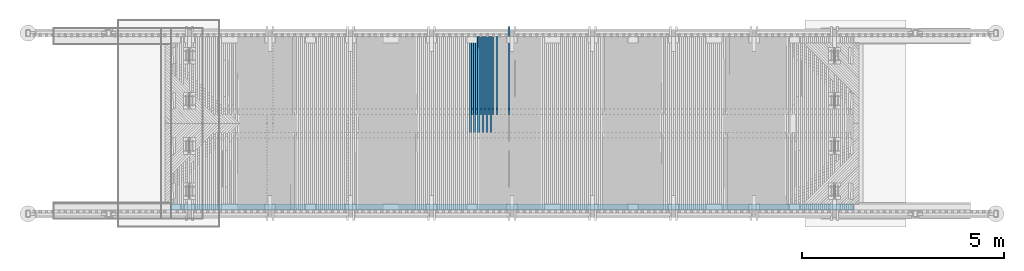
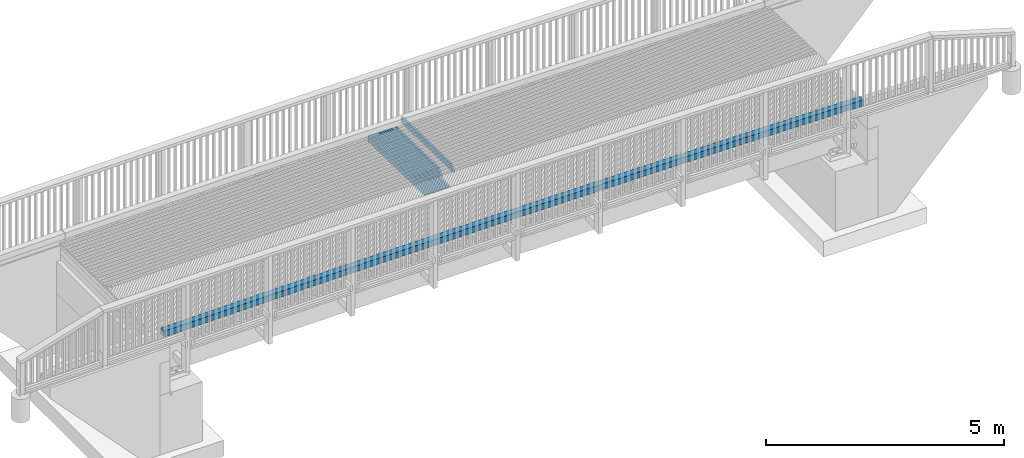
# One storey, part 27 of 52: 15 beams.
"""IFC2X3 building model written with IfcOpenShell, lengths in millimetres."""

from ifc_helpers import new_model, si_unit, frame, origin_with_axes, place, context, subcontext, project, spatial, faceted_brep, material, type_object, element, save


model = new_model("IFC2X3")

# Units and contexts
model_context = context("Model", 3, precision=1e-05, world=origin_with_axes())
body_context = subcontext(model_context, "Body", "Model", "MODEL_VIEW")
ifc_project = project(units=[si_unit("LENGTHUNIT", "METRE", prefix="MILLI"), si_unit("AREAUNIT", "SQUARE_METRE"), si_unit("VOLUMEUNIT", "CUBIC_METRE"), si_unit("MASSUNIT", "GRAM", prefix="KILO"), si_unit("TIMEUNIT", "SECOND"), si_unit("PLANEANGLEUNIT", "RADIAN"), si_unit("SOLIDANGLEUNIT", "STERADIAN"), si_unit("THERMODYNAMICTEMPERATUREUNIT", "DEGREE_CELSIUS"), si_unit("LUMINOUSINTENSITYUNIT", "LUMEN")], contexts=[model_context])

# Site, building, storey
site_placement = place(None, origin_with_axes())
site = spatial("IfcSite", under=ifc_project, at=site_placement, Name="Undefined", CompositionType="ELEMENT")
building_placement = place(site_placement, origin_with_axes())
building = spatial("IfcBuilding", under=site, at=building_placement, Name="Undefined", CompositionType="ELEMENT")
storey_placement = place(building_placement, origin_with_axes())
storey = spatial("IfcBuildingStorey", under=building, at=storey_placement, Name="Undefined", CompositionType="ELEMENT", Elevation=0.0)

# Beams
ifc_material = material(Name="TIMBER/Timber_Undefined")
beam_type_1 = type_object("IfcBeamType", Name="150*150", PredefinedType="NOTDEFINED")
beam_1_placement = place(storey_placement, frame((-101.638019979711, 290.004907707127, 3288.62561019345), z_axis=(0.0, -1.0, 0.0), x_axis=(1.0, 0.0, 0.0)))
element("IfcBeam", 1, at=beam_1_placement, inside=storey, type_object=beam_type_1, material=ifc_material, Name="TÖRMÄYSJOHDE", ObjectType="150*150", context=body_context, shape_type="Brep", body=[
    faceted_brep([(-322.982711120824, -79.4552193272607, 75.0), (-325.088810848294, 70.5299944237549, 75.0), (-367.511180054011, 69.9228401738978, 75.0), (-368.361913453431, -80.1046921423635, 75.0), (-325.088810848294, 70.5299944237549, -75.0), (-367.511180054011, 69.9228401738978, -75.0), (-322.982711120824, -79.4552193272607, -75.0), (-368.361913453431, -80.1046921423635, -75.0), (1.01255045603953, -74.9931646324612, -75.0), (1.01255045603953, -74.9931646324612, 75.0), (-1.01255045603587, 74.9931646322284, 75.0), (-1.01255045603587, 74.9931646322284, -75.0), (323.066072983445, 79.2813189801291, -75.0), (325.010174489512, -70.7060820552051, -75.0), (325.010174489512, -70.7060820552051, 75.0), (323.066072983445, 79.2813189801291, 75.0), (647.146964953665, 83.3944562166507, 75.0), (647.146964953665, 83.3944562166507, -75.0), (649.010066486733, -66.5939728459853, -75.0), (649.010066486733, -66.5939728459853, 75.0), (973.012131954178, -62.6568382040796, 75.0), (971.230030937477, 87.3325751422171, 75.0), (971.230030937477, 87.3325751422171, -75.0), (973.012131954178, -62.6568382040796, -75.0), (1297.01627639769, -58.8946792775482, -75.0), (1297.01627639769, -58.8946792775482, 75.0), (1295.3151764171, 91.0956746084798, 75.0), (1295.3151764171, 91.0956746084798, -75.0), (1619.40230687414, 94.6837535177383, -75.0), (1621.0224053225, -55.307497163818, -75.0), (1621.0224053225, -55.307497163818, 75.0), (1619.40230687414, 94.6837535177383, 75.0), (1943.49132778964, 98.096810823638, 75.0), (1943.49132778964, 98.096810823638, -75.0), (1945.03042423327, -51.8952929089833, -75.0), (1945.03042423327, -51.8952929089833, 75.0), (2269.04023863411, -48.6580675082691, 75.0), (2267.58214464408, 101.334845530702, 75.0), (2267.58214464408, 101.334845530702, -75.0), (2269.04023863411, -48.6580675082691, -75.0), (2593.05175402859, -45.5958219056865, -75.0), (2593.05175402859, -45.5958219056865, 75.0), (2591.67466291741, 104.397856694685, 75.0), (2591.67466291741, 104.397856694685, -75.0), (2915.7687880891, 107.285843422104, -75.0), (2917.06487591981, -42.7085569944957, -75.0), (2917.06487591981, -42.7085569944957, 75.0), (2915.7687880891, 107.285843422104, 75.0), (3239.86442563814, 109.998804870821, 75.0), (3239.86442563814, 109.998804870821, -75.0), (3241.07950981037, -39.9962736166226, -75.0), (3241.07950981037, -39.9962736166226, 75.0), (3565.09556120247, -37.4589725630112, 75.0), (3563.96148104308, 112.536740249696, 75.0), (3563.96148104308, 112.536740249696, -75.0), (3565.09556120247, -37.4589725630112, -75.0), (3889.11293559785, -35.0966545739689, -75.0), (3889.11293559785, -35.0966545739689, 75.0), (3888.05985978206, 114.899648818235, 75.0), (3888.05985978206, 114.899648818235, -75.0), (4212.15946733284, 117.087529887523, -75.0), (4213.1315384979, -32.9093203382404, -75.0), (4213.1315384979, -32.9093203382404, 75.0), (4212.15946733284, 117.087529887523, 75.0), (4536.2602091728, 119.100382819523, 75.0), (4536.2602091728, 119.100382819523, -75.0), (4537.15127540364, -30.8969704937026, -75.0), (4537.15127540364, -30.8969704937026, 75.0), (4861.17205181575, -29.0596056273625, 75.0), (4860.36199077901, 120.938207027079, 75.0), (4860.36199077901, 120.938207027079, -75.0), (4861.17205181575, -29.0596056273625, -75.0), (5185.19377323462, -27.3972262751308, -75.0), (5185.19377323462, -27.3972262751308, 75.0), (5184.46471762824, 122.601001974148, 75.0), (5184.46471762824, 122.601001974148, -75.0), (5508.56829519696, 124.088767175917, -75.0), (5509.21634516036, -25.9098329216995, -75.0), (5509.21634516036, -25.9098329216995, 75.0), (5508.56829519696, 124.088767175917, 75.0), (5832.67262896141, 125.401502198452, 75.0), (5832.67262896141, 125.401502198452, -75.0), (5833.23967309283, -24.5974260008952, -75.0), (5833.23967309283, -24.5974260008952, 75.0), (6157.26366253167, -23.4600058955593, 75.0), (6156.77762439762, 126.539206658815, 75.0), (6156.77762439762, 126.539206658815, -75.0), (6157.26366253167, -23.4600058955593, -75.0), (6481.28821897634, -22.4975729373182, -75.0), (6481.28821897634, -22.4975729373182, 75.0), (6480.88318698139, 127.501880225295, 75.0), (6480.88318698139, 127.501880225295, -75.0), (6804.98922218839, 128.289522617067, -75.0), (6805.3132479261, -21.7101274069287, -75.0), (6805.3132479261, -21.7101274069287, 75.0), (6804.98922218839, 128.289522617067, 75.0), (7129.09563549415, 128.902133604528, 75.0), (7129.09563549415, 128.902133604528, -75.0), (7129.33865488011, -21.0976695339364, -75.0), (7129.33865488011, -21.0976695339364, 75.0), (7453.36434533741, -20.6601994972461, 75.0), (7453.20233237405, 129.339713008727, 75.0), (7453.20233237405, 129.339713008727, -75.0), (7453.36434533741, -20.6601994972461, -75.0), (7777.39022479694, -20.3977174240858, -75.0), (7777.39022479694, -20.3977174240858, 75.0), (7777.30921830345, 129.602260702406, 75.0), (7777.30921830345, 129.602260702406, -75.0), (8101.4161987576, 129.689776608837, -75.0), (8101.4161987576, -20.3102233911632, -75.0), (8101.4161987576, -20.3102233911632, 75.0), (8101.4161987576, 129.689776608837, 75.0), (8425.52317921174, 129.602260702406, 75.0), (8425.52317921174, 129.602260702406, -75.0), (8425.44217271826, -20.3977174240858, -75.0), (8425.44217271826, -20.3977174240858, 75.0), (8749.46805217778, -20.6601994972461, 75.0), (8749.63006514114, 129.339713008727, 75.0), (8749.63006514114, 129.339713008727, -75.0), (8749.46805217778, -20.6601994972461, -75.0), (9073.49374263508, -21.0976695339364, -75.0), (9073.49374263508, -21.0976695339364, 75.0), (9073.73676202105, 128.902133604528, 75.0), (9073.73676202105, 128.902133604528, -75.0), (9397.8431753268, 128.289522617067, -75.0), (9397.51914958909, -21.7101274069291, -75.0), (9397.51914958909, -21.7101274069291, 75.0), (9397.8431753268, 128.289522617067, 75.0), (9721.9492105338, 127.501880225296, 75.0), (9721.9492105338, 127.501880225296, -75.0), (9721.54417853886, -22.4975729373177, -75.0), (9721.54417853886, -22.4975729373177, 75.0), (10045.5687349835, -23.4600058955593, 75.0), (10046.0547731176, 126.539206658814, 75.0), (10046.0547731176, 126.539206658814, -75.0), (10045.5687349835, -23.4600058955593, -75.0), (10369.5927244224, -24.5974260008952, -75.0), (10369.5927244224, -24.5974260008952, 75.0), (10370.1597685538, 125.401502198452, 75.0), (10370.1597685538, 125.401502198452, -75.0), (10694.2641023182, 124.088767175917, -75.0), (10693.6160523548, -25.9098329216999, -75.0), (10693.6160523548, -25.9098329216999, 75.0), (10694.2641023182, 124.088767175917, 75.0), (11018.367679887, 122.601001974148, 75.0), (11018.367679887, 122.601001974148, -75.0), (11017.6386242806, -27.3972262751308, -75.0), (11017.6386242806, -27.3972262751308, 75.0), (11341.6603456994, -29.0596056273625, 75.0), (11342.4704067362, 120.938207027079, 75.0), (11342.4704067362, 120.938207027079, -75.0), (11341.6603456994, -29.0596056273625, -75.0), (11665.6811221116, -30.8969704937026, -75.0), (11665.6811221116, -30.8969704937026, 75.0), (11666.5721883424, 119.100382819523, 75.0), (11666.5721883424, 119.100382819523, -75.0), (11990.6729301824, 117.087529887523, -75.0), (11989.7008590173, -32.9093203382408, -75.0), (11989.7008590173, -32.9093203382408, 75.0), (11990.6729301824, 117.087529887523, 75.0), (12314.7725377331, 114.899648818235, 75.0), (12314.7725377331, 114.899648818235, -75.0), (12313.7194619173, -35.0966545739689, -75.0), (12313.7194619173, -35.0966545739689, 75.0), (12637.7368363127, -37.4589725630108, 75.0), (12638.8709164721, 112.536740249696, 75.0), (12638.8709164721, 112.536740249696, -75.0), (12637.7368363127, -37.4589725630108, -75.0), (12961.7528877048, -39.9962736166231, -75.0), (12961.7528877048, -39.9962736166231, 75.0), (12962.9679718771, 109.998804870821, 75.0), (12962.9679718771, 109.998804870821, -75.0), (13287.0636094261, 107.285843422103, -75.0), (13285.7675215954, -42.7085569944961, -75.0), (13285.7675215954, -42.7085569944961, 75.0), (13287.0636094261, 107.285843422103, 75.0), (13611.1577345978, 104.397856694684, 75.0), (13611.1577345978, 104.397856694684, -75.0), (13609.7806434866, -45.5958219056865, -75.0), (13609.7806434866, -45.5958219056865, 75.0), (13933.7921588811, -48.6580675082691, 75.0), (13935.2502528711, 101.334845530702, 75.0), (13935.2502528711, 101.334845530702, -75.0), (13933.7921588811, -48.6580675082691, -75.0), (14257.8019732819, -51.8952929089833, -75.0), (14257.8019732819, -51.8952929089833, 75.0), (14259.3410697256, 98.096810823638, 75.0), (14259.3410697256, 98.096810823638, -75.0), (14583.430090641, 94.6837535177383, -75.0), (14581.8099921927, -55.3074971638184, -75.0), (14581.8099921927, -55.3074971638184, 75.0), (14583.430090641, 94.6837535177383, 75.0), (14907.5172210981, 91.0956746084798, 75.0), (14907.5172210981, 91.0956746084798, -75.0), (14905.8161211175, -58.8946792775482, -75.0), (14905.8161211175, -58.8946792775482, 75.0), (15229.820265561, -62.6568382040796, 75.0), (15231.6023665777, 87.3325751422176, 75.0), (15231.6023665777, 87.3325751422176, -75.0), (15229.820265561, -62.6568382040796, -75.0), (15553.8223310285, -66.5939728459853, -75.0), (15553.8223310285, -66.5939728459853, 75.0), (15555.6854325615, 83.3944562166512, 75.0), (15555.6854325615, 83.3944562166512, -75.0), (15879.7663245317, 79.2813189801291, -75.0), (15877.8222230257, -70.7060820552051, -75.0), (15877.8222230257, -70.7060820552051, 75.0), (15879.7663245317, 79.2813189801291, 75.0), (16203.8449479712, 74.9931646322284, 75.0), (16203.8449479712, 74.9931646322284, -75.0), (16201.8198470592, -74.9931646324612, -75.0), (16201.8198470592, -74.9931646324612, 75.0), (16513.3537972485, -79.2803664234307, 75.0), (16515.4567816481, 70.7048910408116, 75.0), (16515.4567816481, 70.7048910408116, -75.0), (16513.3537972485, -79.2803664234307, -75.0), (16571.6382119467, -80.1127239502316, -75.0), (16571.6382119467, -80.1127239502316, 75.0), (16570.7872297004, 69.9147190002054, 75.0), (16570.7872297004, 69.9147190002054, -75.0)], [[[0, 1, 2, 3]], [[1, 4, 5, 2]], [[4, 6, 7, 5]], [[3, 2, 5, 7]], [[6, 0, 3, 7]], [[0, 6, 8, 9]], [[1, 0, 9, 10]], [[4, 1, 10, 11]], [[6, 4, 11, 8]], [[8, 11, 12, 13]], [[9, 8, 13, 14]], [[10, 9, 14, 15]], [[11, 10, 15, 12]], [[12, 15, 16, 17]], [[13, 12, 17, 18]], [[14, 13, 18, 19]], [[15, 14, 19, 16]], [[16, 19, 20, 21]], [[17, 16, 21, 22]], [[18, 17, 22, 23]], [[19, 18, 23, 20]], [[20, 23, 24, 25]], [[21, 20, 25, 26]], [[22, 21, 26, 27]], [[23, 22, 27, 24]], [[24, 27, 28, 29]], [[25, 24, 29, 30]], [[26, 25, 30, 31]], [[27, 26, 31, 28]], [[28, 31, 32, 33]], [[29, 28, 33, 34]], [[30, 29, 34, 35]], [[31, 30, 35, 32]], [[32, 35, 36, 37]], [[33, 32, 37, 38]], [[34, 33, 38, 39]], [[35, 34, 39, 36]], [[36, 39, 40, 41]], [[37, 36, 41, 42]], [[38, 37, 42, 43]], [[39, 38, 43, 40]], [[40, 43, 44, 45]], [[41, 40, 45, 46]], [[42, 41, 46, 47]], [[43, 42, 47, 44]], [[44, 47, 48, 49]], [[45, 44, 49, 50]], [[46, 45, 50, 51]], [[47, 46, 51, 48]], [[48, 51, 52, 53]], [[49, 48, 53, 54]], [[50, 49, 54, 55]], [[51, 50, 55, 52]], [[52, 55, 56, 57]], [[53, 52, 57, 58]], [[54, 53, 58, 59]], [[55, 54, 59, 56]], [[56, 59, 60, 61]], [[57, 56, 61, 62]], [[58, 57, 62, 63]], [[59, 58, 63, 60]], [[60, 63, 64, 65]], [[61, 60, 65, 66]], [[62, 61, 66, 67]], [[63, 62, 67, 64]], [[64, 67, 68, 69]], [[65, 64, 69, 70]], [[66, 65, 70, 71]], [[67, 66, 71, 68]], [[68, 71, 72, 73]], [[69, 68, 73, 74]], [[70, 69, 74, 75]], [[71, 70, 75, 72]], [[72, 75, 76, 77]], [[73, 72, 77, 78]], [[74, 73, 78, 79]], [[75, 74, 79, 76]], [[76, 79, 80, 81]], [[77, 76, 81, 82]], [[78, 77, 82, 83]], [[79, 78, 83, 80]], [[80, 83, 84, 85]], [[81, 80, 85, 86]], [[82, 81, 86, 87]], [[83, 82, 87, 84]], [[84, 87, 88, 89]], [[85, 84, 89, 90]], [[86, 85, 90, 91]], [[87, 86, 91, 88]], [[88, 91, 92, 93]], [[89, 88, 93, 94]], [[90, 89, 94, 95]], [[91, 90, 95, 92]], [[92, 95, 96, 97]], [[93, 92, 97, 98]], [[94, 93, 98, 99]], [[95, 94, 99, 96]], [[96, 99, 100, 101]], [[97, 96, 101, 102]], [[98, 97, 102, 103]], [[99, 98, 103, 100]], [[100, 103, 104, 105]], [[101, 100, 105, 106]], [[102, 101, 106, 107]], [[103, 102, 107, 104]], [[104, 107, 108, 109]], [[105, 104, 109, 110]], [[106, 105, 110, 111]], [[107, 106, 111, 108]], [[108, 111, 112, 113]], [[109, 108, 113, 114]], [[110, 109, 114, 115]], [[111, 110, 115, 112]], [[112, 115, 116, 117]], [[113, 112, 117, 118]], [[114, 113, 118, 119]], [[115, 114, 119, 116]], [[116, 119, 120, 121]], [[117, 116, 121, 122]], [[118, 117, 122, 123]], [[119, 118, 123, 120]], [[120, 123, 124, 125]], [[121, 120, 125, 126]], [[122, 121, 126, 127]], [[123, 122, 127, 124]], [[124, 127, 128, 129]], [[125, 124, 129, 130]], [[126, 125, 130, 131]], [[127, 126, 131, 128]], [[128, 131, 132, 133]], [[129, 128, 133, 134]], [[130, 129, 134, 135]], [[131, 130, 135, 132]], [[132, 135, 136, 137]], [[133, 132, 137, 138]], [[134, 133, 138, 139]], [[135, 134, 139, 136]], [[136, 139, 140, 141]], [[137, 136, 141, 142]], [[138, 137, 142, 143]], [[139, 138, 143, 140]], [[140, 143, 144, 145]], [[141, 140, 145, 146]], [[142, 141, 146, 147]], [[143, 142, 147, 144]], [[144, 147, 148, 149]], [[145, 144, 149, 150]], [[146, 145, 150, 151]], [[147, 146, 151, 148]], [[148, 151, 152, 153]], [[149, 148, 153, 154]], [[150, 149, 154, 155]], [[151, 150, 155, 152]], [[152, 155, 156, 157]], [[153, 152, 157, 158]], [[154, 153, 158, 159]], [[155, 154, 159, 156]], [[156, 159, 160, 161]], [[157, 156, 161, 162]], [[158, 157, 162, 163]], [[159, 158, 163, 160]], [[160, 163, 164, 165]], [[161, 160, 165, 166]], [[162, 161, 166, 167]], [[163, 162, 167, 164]], [[164, 167, 168, 169]], [[165, 164, 169, 170]], [[166, 165, 170, 171]], [[167, 166, 171, 168]], [[168, 171, 172, 173]], [[169, 168, 173, 174]], [[170, 169, 174, 175]], [[171, 170, 175, 172]], [[172, 175, 176, 177]], [[173, 172, 177, 178]], [[174, 173, 178, 179]], [[175, 174, 179, 176]], [[176, 179, 180, 181]], [[177, 176, 181, 182]], [[178, 177, 182, 183]], [[179, 178, 183, 180]], [[180, 183, 184, 185]], [[181, 180, 185, 186]], [[182, 181, 186, 187]], [[183, 182, 187, 184]], [[184, 187, 188, 189]], [[185, 184, 189, 190]], [[186, 185, 190, 191]], [[187, 186, 191, 188]], [[188, 191, 192, 193]], [[189, 188, 193, 194]], [[190, 189, 194, 195]], [[191, 190, 195, 192]], [[192, 195, 196, 197]], [[193, 192, 197, 198]], [[194, 193, 198, 199]], [[195, 194, 199, 196]], [[196, 199, 200, 201]], [[197, 196, 201, 202]], [[198, 197, 202, 203]], [[199, 198, 203, 200]], [[200, 203, 204, 205]], [[201, 200, 205, 206]], [[202, 201, 206, 207]], [[203, 202, 207, 204]], [[204, 207, 208, 209]], [[205, 204, 209, 210]], [[206, 205, 210, 211]], [[207, 206, 211, 208]], [[208, 211, 212, 213]], [[209, 208, 213, 214]], [[210, 209, 214, 215]], [[211, 210, 215, 212]], [[212, 215, 216, 217]], [[213, 212, 217, 218]], [[214, 213, 218, 219]], [[215, 214, 219, 216]], [[218, 217, 216, 219]]]),
])
beam_type_2 = type_object("IfcBeamType", Name="150*50", PredefinedType="NOTDEFINED")
beam_2_placement = place(storey_placement, frame((7625.71098251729, 4513.49539238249, 3093.03145416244), z_axis=(-0.000619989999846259, 0.0199960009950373, 0.999799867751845), x_axis=(-1.24010000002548e-05, -0.99980006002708, 0.0199959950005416)))
element("IfcBeam", 2, at=beam_2_placement, inside=storey, type_object=beam_type_2, material=ifc_material, Name="BEAM", ObjectType="150*50", context=body_context, shape_type="Brep", body=[
    faceted_brep([(-1.67788130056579e-07, -24.9999999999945, -74.9999999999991), (1.67786311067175e-07, -24.9999999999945, 75.0000000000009), (1.67786311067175e-07, 25.0000000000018, 75.0), (-1.67787220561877e-07, 25.0000000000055, -75.0), (1789.96936408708, 24.9999999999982, 75.0000000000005), (1928.42646328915, 24.9999999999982, -74.9999999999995), (1928.42646353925, -25.0, -75.0), (1789.96936433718, -25.0000000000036, 74.9999999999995)], [[[0, 1, 2, 3]], [[3, 2, 4, 5]], [[0, 3, 5, 6]], [[1, 0, 6, 7]], [[2, 1, 7, 4]], [[5, 4, 7, 6]]]),
])
beam_3_placement = place(storey_placement, frame((7475.67095650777, 4513.4953923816, 3092.92162365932), z_axis=(-0.000952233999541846, 0.019996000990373, 0.999799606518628), x_axis=(-1.90460000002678e-05, -0.999800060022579, 0.0199959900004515)))
element("IfcBeam", 3, at=beam_3_placement, inside=storey, type_object=beam_type_2, material=ifc_material, Name="BEAM", ObjectType="150*50", context=body_context, shape_type="Brep", body=[
    faceted_brep([(-1.67788130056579e-07, -24.9999999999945, -74.9999999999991), (-1.67787220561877e-07, 25.0000000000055, -75.0), (2375.00494422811, 25.0000000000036, -74.9999999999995), (2375.0049444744, -24.9999999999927, -74.9999999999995), (1.67786311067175e-07, -24.9999999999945, 75.0000000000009), (1.67786311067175e-07, 25.0000000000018, 75.0), (2150.42515052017, 25.0000000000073, 75.0), (2510.59248715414, 25.0000000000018, 60.5875433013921), (2510.5924871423, -24.9999999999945, 60.5875430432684), (2150.42514405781, -24.9999999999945, 75.0000000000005)], [[[0, 1, 2, 3]], [[0, 4, 5, 1]], [[2, 1, 5, 6, 7]], [[3, 2, 7, 8]], [[4, 0, 3, 8, 9]], [[5, 4, 9, 6]], [[8, 7, 6, 9]]]),
])
beam_4_placement = place(storey_placement, frame((7525.69097399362, 4513.49539238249, 3092.96095461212), z_axis=(-0.00078611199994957, 0.0199960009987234, 0.999799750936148), x_axis=(-1.57230000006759e-05, -0.999800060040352, 0.019995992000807)))
element("IfcBeam", 4, at=beam_4_placement, inside=storey, type_object=beam_type_2, material=ifc_material, Name="BEAM", ObjectType="150*50", context=body_context, shape_type="Brep", body=[
    faceted_brep([(-1.67788130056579e-07, -24.9999999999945, -74.9999999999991), (1.67786311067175e-07, -24.9999999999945, 75.0000000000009), (1.67786311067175e-07, 25.0000000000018, 75.0), (-1.67787220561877e-07, 25.0000000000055, -75.0), (1789.96936408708, 24.9999999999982, 75.0000000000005), (1928.42646328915, 24.9999999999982, -74.9999999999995), (1928.42646353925, -25.0, -75.0), (1789.96936433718, -25.0000000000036, 74.9999999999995)], [[[0, 1, 2, 3]], [[3, 2, 4, 5]], [[0, 3, 5, 6]], [[1, 0, 6, 7]], [[2, 1, 7, 4]], [[5, 4, 7, 6]]]),
])
beam_5_placement = place(storey_placement, frame((7375.65096830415, 4513.4953923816, 3092.82619415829), z_axis=(-0.00111835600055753, 0.0199960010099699, 0.999799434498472), x_axis=(-2.23680000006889e-05, -0.999800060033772, 0.0199959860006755)))
element("IfcBeam", 5, at=beam_5_placement, inside=storey, type_object=beam_type_2, material=ifc_material, Name="BEAM", ObjectType="150*50", context=body_context, shape_type="Brep", body=[
    faceted_brep([(-1.67788130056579e-07, -24.9999999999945, -74.9999999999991), (-1.67787220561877e-07, 25.0000000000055, -75.0), (2375.00494422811, 25.0000000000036, -74.9999999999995), (2375.0049444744, -24.9999999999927, -74.9999999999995), (1.67786311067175e-07, -24.9999999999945, 75.0000000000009), (1.67786311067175e-07, 25.0000000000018, 75.0), (2150.42515052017, 25.0000000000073, 75.0), (2510.59248715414, 25.0000000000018, 60.5875433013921), (2510.5924871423, -24.9999999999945, 60.5875430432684), (2150.42514405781, -24.9999999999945, 75.0000000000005)], [[[0, 1, 2, 3]], [[0, 4, 5, 1]], [[2, 1, 5, 6, 7]], [[3, 2, 7, 8]], [[4, 0, 3, 8, 9]], [[5, 4, 9, 6]], [[8, 7, 6, 9]]]),
])
beam_6_placement = place(storey_placement, frame((7425.67097856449, 4513.49539238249, 3092.87383620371), z_axis=(-0.000952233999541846, 0.019996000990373, 0.999799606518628), x_axis=(-1.90460000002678e-05, -0.999800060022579, 0.0199959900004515)))
element("IfcBeam", 6, at=beam_6_placement, inside=storey, type_object=beam_type_2, material=ifc_material, Name="BEAM", ObjectType="150*50", context=body_context, shape_type="Brep", body=[
    faceted_brep([(-1.67788130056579e-07, -24.9999999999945, -74.9999999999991), (1.67786311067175e-07, -24.9999999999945, 75.0000000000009), (1.67786311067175e-07, 25.0000000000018, 75.0), (-1.67787220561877e-07, 25.0000000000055, -75.0), (1789.96936408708, 24.9999999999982, 75.0000000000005), (1928.42646328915, 24.9999999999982, -74.9999999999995), (1928.42646353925, -25.0, -75.0), (1789.96936433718, -25.0000000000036, 74.9999999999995)], [[[0, 1, 2, 3]], [[3, 2, 4, 5]], [[0, 3, 5, 6]], [[1, 0, 6, 7]], [[2, 1, 7, 4]], [[5, 4, 7, 6]]]),
])
beam_7_placement = place(storey_placement, frame((7275.63099733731, 4513.4953923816, 3092.71414580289), z_axis=(-0.00128447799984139, 0.0199960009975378, 0.99979923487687), x_axis=(-2.56900000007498e-05, -0.999800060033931, 0.0199959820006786)))
element("IfcBeam", 7, at=beam_7_placement, inside=storey, type_object=beam_type_2, material=ifc_material, Name="BEAM", ObjectType="150*50", context=body_context, shape_type="Brep", body=[
    faceted_brep([(-1.67788130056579e-07, -24.9999999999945, -74.9999999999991), (-1.67787220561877e-07, 25.0000000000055, -75.0), (2375.00494422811, 25.0000000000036, -74.9999999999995), (2375.0049444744, -24.9999999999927, -74.9999999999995), (1.67786311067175e-07, -24.9999999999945, 75.0000000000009), (1.67786311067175e-07, 25.0000000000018, 75.0), (2150.42515052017, 25.0000000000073, 75.0), (2510.59248715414, 25.0000000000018, 60.5875433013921), (2510.5924871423, -24.9999999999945, 60.5875430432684), (2150.42514405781, -24.9999999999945, 75.0000000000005)], [[[0, 1, 2, 3]], [[0, 4, 5, 1]], [[2, 1, 5, 6, 7]], [[3, 2, 7, 8]], [[4, 0, 3, 8, 9]], [[5, 4, 9, 6]], [[8, 7, 6, 9]]]),
])
beam_8_placement = place(storey_placement, frame((7325.6509989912, 4513.49539238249, 3092.77009893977), z_axis=(-0.00111835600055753, 0.0199960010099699, 0.999799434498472), x_axis=(-2.23680000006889e-05, -0.999800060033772, 0.0199959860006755)))
element("IfcBeam", 8, at=beam_8_placement, inside=storey, type_object=beam_type_2, material=ifc_material, Name="BEAM", ObjectType="150*50", context=body_context, shape_type="Brep", body=[
    faceted_brep([(-1.67788130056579e-07, -24.9999999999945, -74.9999999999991), (1.67786311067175e-07, -24.9999999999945, 75.0000000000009), (1.67786311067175e-07, 25.0000000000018, 75.0), (-1.67787220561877e-07, 25.0000000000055, -75.0), (1789.96936408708, 24.9999999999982, 75.0000000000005), (1928.42646328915, 24.9999999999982, -74.9999999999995), (1928.42646353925, -25.0, -75.0), (1789.96936433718, -25.0000000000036, 74.9999999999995)], [[[0, 1, 2, 3]], [[3, 2, 4, 5]], [[0, 3, 5, 6]], [[1, 0, 6, 7]], [[2, 1, 7, 4]], [[5, 4, 7, 6]]]),
])
beam_9_placement = place(storey_placement, frame((7175.61104636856, 4513.4953923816, 3092.58547859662), z_axis=(-0.00145059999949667, 0.0199960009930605, 0.999799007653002), x_axis=(-2.90130000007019e-05, -0.999800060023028, 0.0199959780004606)))
element("IfcBeam", 9, at=beam_9_placement, inside=storey, type_object=beam_type_2, material=ifc_material, Name="BEAM", ObjectType="150*50", context=body_context, shape_type="Brep", body=[
    faceted_brep([(-1.67788130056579e-07, -24.9999999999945, -74.9999999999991), (-1.67787220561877e-07, 25.0000000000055, -75.0), (2375.00494422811, 25.0000000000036, -74.9999999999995), (2375.0049444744, -24.9999999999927, -74.9999999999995), (1.67786311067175e-07, -24.9999999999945, 75.0000000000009), (1.67786311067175e-07, 25.0000000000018, 75.0), (2150.42515052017, 25.0000000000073, 75.0), (2510.59248715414, 25.0000000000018, 60.5875433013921), (2510.5924871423, -24.9999999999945, 60.5875430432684), (2150.42514405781, -24.9999999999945, 75.0000000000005)], [[[0, 1, 2, 3]], [[0, 4, 5, 1]], [[2, 1, 5, 6, 7]], [[3, 2, 7, 8]], [[4, 0, 3, 8, 9]], [[5, 4, 9, 6]], [[8, 7, 6, 9]]]),
])
beam_10_placement = place(storey_placement, frame((7225.63103803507, 4513.49539238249, 3092.64974282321), z_axis=(-0.00128447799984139, 0.0199960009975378, 0.99979923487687), x_axis=(-2.56900000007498e-05, -0.999800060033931, 0.0199959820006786)))
element("IfcBeam", 10, at=beam_10_placement, inside=storey, type_object=beam_type_2, material=ifc_material, Name="BEAM", ObjectType="150*50", context=body_context, shape_type="Brep", body=[
    faceted_brep([(-1.67788130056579e-07, -24.9999999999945, -74.9999999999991), (1.67786311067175e-07, -24.9999999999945, 75.0000000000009), (1.67786311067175e-07, 25.0000000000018, 75.0), (-1.67787220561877e-07, 25.0000000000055, -75.0), (1789.96936408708, 24.9999999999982, 75.0000000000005), (1928.42646328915, 24.9999999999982, -74.9999999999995), (1928.42646353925, -25.0, -75.0), (1789.96936433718, -25.0000000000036, 74.9999999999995)], [[[0, 1, 2, 3]], [[3, 2, 4, 5]], [[0, 3, 5, 6]], [[1, 0, 6, 7]], [[2, 1, 7, 4]], [[5, 4, 7, 6]]]),
])
beam_11_placement = place(storey_placement, frame((7075.5911181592, 4513.4953923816, 3092.44019254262), z_axis=(-0.00161672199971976, 0.0199960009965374, 0.999798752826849), x_axis=(-3.23350000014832e-05, -0.999800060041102, 0.019995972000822)))
element("IfcBeam", 11, at=beam_11_placement, inside=storey, type_object=beam_type_2, material=ifc_material, Name="BEAM", ObjectType="150*50", context=body_context, shape_type="Brep", body=[
    faceted_brep([(-1.67788130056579e-07, -24.9999999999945, -74.9999999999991), (-1.67787220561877e-07, 25.0000000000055, -75.0), (2375.00494422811, 25.0000000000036, -74.9999999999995), (2375.0049444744, -24.9999999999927, -74.9999999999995), (1.67786311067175e-07, -24.9999999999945, 75.0000000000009), (1.67786311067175e-07, 25.0000000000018, 75.0), (2150.42515052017, 25.0000000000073, 75.0), (2510.59248715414, 25.0000000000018, 60.5875433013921), (2510.5924871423, -24.9999999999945, 60.5875430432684), (2150.42514405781, -24.9999999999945, 75.0000000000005)], [[[0, 1, 2, 3]], [[0, 4, 5, 1]], [[2, 1, 5, 6, 7]], [[3, 2, 7, 8]], [[4, 0, 3, 8, 9]], [[5, 4, 9, 6]], [[8, 7, 6, 9]]]),
])
beam_12_placement = place(storey_placement, frame((7125.61109845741, 4513.49539238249, 3092.51276785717), z_axis=(-0.00145059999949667, 0.0199960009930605, 0.999799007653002), x_axis=(-2.90130000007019e-05, -0.999800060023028, 0.0199959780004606)))
element("IfcBeam", 12, at=beam_12_placement, inside=storey, type_object=beam_type_2, material=ifc_material, Name="BEAM", ObjectType="150*50", context=body_context, shape_type="Brep", body=[
    faceted_brep([(-1.67788130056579e-07, -24.9999999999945, -74.9999999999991), (1.67786311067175e-07, -24.9999999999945, 75.0000000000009), (1.67786311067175e-07, 25.0000000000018, 75.0), (-1.67787220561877e-07, 25.0000000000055, -75.0), (1789.96936408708, 24.9999999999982, 75.0000000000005), (1928.42646328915, 24.9999999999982, -74.9999999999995), (1928.42646353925, -25.0, -75.0), (1789.96936433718, -25.0000000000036, 74.9999999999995)], [[[0, 1, 2, 3]], [[3, 2, 4, 5]], [[0, 3, 5, 6]], [[1, 0, 6, 7]], [[2, 1, 7, 4]], [[5, 4, 7, 6]]]),
])
beam_13_placement = place(storey_placement, frame((6975.57121547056, 4513.4953923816, 3092.27828764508), z_axis=(-0.0017828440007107, 0.0199960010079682, 0.999798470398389), x_axis=(-3.56580000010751e-05, -0.999800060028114, 0.0199959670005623)))
element("IfcBeam", 13, at=beam_13_placement, inside=storey, type_object=beam_type_2, material=ifc_material, Name="BEAM", ObjectType="150*50", context=body_context, shape_type="Brep", body=[
    faceted_brep([(-1.67788130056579e-07, -24.9999999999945, -74.9999999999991), (-1.67787220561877e-07, 25.0000000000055, -75.0), (2375.00494422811, 25.0000000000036, -74.9999999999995), (2375.0049444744, -24.9999999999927, -74.9999999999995), (1.67786311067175e-07, -24.9999999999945, 75.0000000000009), (1.67786311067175e-07, 25.0000000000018, 75.0), (2150.42515052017, 25.0000000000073, 75.0), (2510.59248715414, 25.0000000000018, 60.5875433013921), (2510.5924871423, -24.9999999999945, 60.5875430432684), (2150.42514405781, -24.9999999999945, 75.0000000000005)], [[[0, 1, 2, 3]], [[0, 4, 5, 1]], [[2, 1, 5, 6, 7]], [[3, 2, 7, 8]], [[4, 0, 3, 8, 9]], [[5, 4, 9, 6]], [[8, 7, 6, 9]]]),
])
beam_14_placement = place(storey_placement, frame((7025.59118301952, 4513.49539238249, 3092.35917404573), z_axis=(-0.00161672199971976, 0.0199960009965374, 0.999798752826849), x_axis=(-3.23350000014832e-05, -0.999800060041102, 0.019995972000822)))
element("IfcBeam", 14, at=beam_14_placement, inside=storey, type_object=beam_type_2, material=ifc_material, Name="BEAM", ObjectType="150*50", context=body_context, shape_type="Brep", body=[
    faceted_brep([(-1.67788130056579e-07, -24.9999999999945, -74.9999999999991), (1.67786311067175e-07, -24.9999999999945, 75.0000000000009), (1.67786311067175e-07, 25.0000000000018, 75.0), (-1.67787220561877e-07, 25.0000000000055, -75.0), (1789.96936408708, 24.9999999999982, 75.0000000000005), (1928.42646328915, 24.9999999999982, -74.9999999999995), (1928.42646353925, -25.0, -75.0), (1789.96936433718, -25.0000000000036, 74.9999999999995)], [[[0, 1, 2, 3]], [[3, 2, 4, 5]], [[0, 3, 5, 6]], [[1, 0, 6, 7]], [[2, 1, 7, 4]], [[5, 4, 7, 6]]]),
])
beam_15_placement = place(storey_placement, frame((7925.15058060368, 4771.44380785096, 3087.98372204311), z_axis=(-0.000121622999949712, 0.0199960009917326, 0.999800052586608), x_axis=(-2.43299999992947e-06, -0.999800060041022, 0.0199959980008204)))
element("IfcBeam", 15, at=beam_15_placement, inside=storey, type_object=beam_type_2, material=ifc_material, Name="BEAM", ObjectType="150*50", context=body_context, shape_type="Brep", body=[
    faceted_brep([(-1.67788130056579e-07, -24.9999999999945, -74.9999999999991), (1.67786311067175e-07, -24.9999999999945, 75.0000000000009), (1.67786311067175e-07, 25.0000000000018, 75.0), (-1.67787220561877e-07, 25.0000000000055, -75.0), (2047.9693678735, 25.0, 75.0), (2186.42646676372, 24.9999999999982, -75.0), (2186.42645144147, -25.0, -75.0), (2047.96935255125, -25.0, 75.0)], [[[0, 1, 2, 3]], [[3, 2, 4, 5]], [[0, 3, 5, 6]], [[1, 0, 6, 7]], [[2, 1, 7, 4]], [[5, 4, 7, 6]]]),
])

save(model, "model.ifc")
